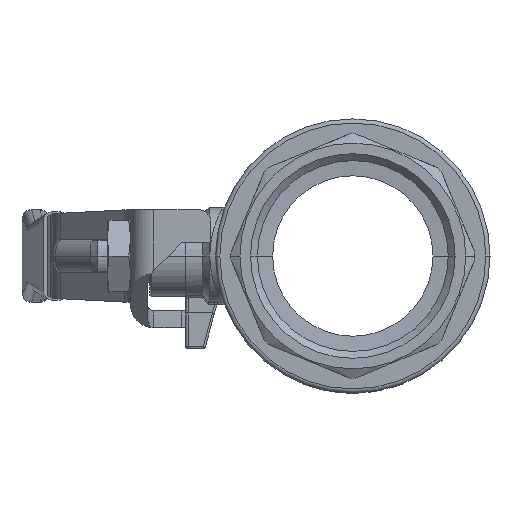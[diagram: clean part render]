
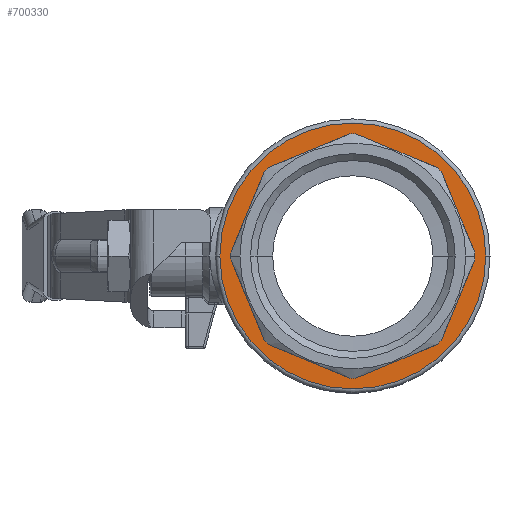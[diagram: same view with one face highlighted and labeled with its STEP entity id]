
A CAD part, left-side view. The second image highlights one B-rep face of the part: STEP entity #700330.
In plain terms, the highlighted planar face has unit normal (-1, 0, 0) as drawn and (1, 0, 0) by its records, which use the part's own axes.
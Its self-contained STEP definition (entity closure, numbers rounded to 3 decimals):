
#698880=CARTESIAN_POINT('',(28.25,31.5,
0.));
#698890=VERTEX_POINT('',#698880);
#698980=CARTESIAN_POINT('',(28.25,-31.5,
0.));
#698990=VERTEX_POINT('',#698980);
#699020=CARTESIAN_POINT('',(28.25,0.,
0.));
#699030=DIRECTION('',(1.,0.,0.));
#699040=DIRECTION('',(0.,1.,0.));
#699050=AXIS2_PLACEMENT_3D('',#699020,#699030,#699040);
#699060=CIRCLE('',#699050,31.5);
#699070=EDGE_CURVE('',#698990,#698890,#699060,.T.);
#699120=CARTESIAN_POINT('',(28.25,0.,
0.));
#699130=DIRECTION('',(1.,0.,0.));
#699140=DIRECTION('',(0.,1.,0.));
#699150=AXIS2_PLACEMENT_3D('',#699120,#699130,#699140);
#699160=PLANE('',#699150);
#699170=EDGE_CURVE('',#698890,#698990,#699060,.T.);
#699180=ORIENTED_EDGE('',*,*,#699170,.T.);
#699190=ORIENTED_EDGE('',*,*,#699070,.T.);
#699200=EDGE_LOOP('',(#699190,#699180));
#699210=FACE_OUTER_BOUND('',#699200,.T.);
#699220=CARTESIAN_POINT('',(28.25,0.,
0.));
#699230=DIRECTION('',(1.,0.,0.));
#699240=DIRECTION('',(0.,1.,0.));
#699250=AXIS2_PLACEMENT_3D('',#699220,#699230,#699240);
#699260=CIRCLE('',#699250,28.94);
#699270=CARTESIAN_POINT('',(28.25,-19.957,
20.958));
#699280=VERTEX_POINT('',#699270);
#699290=CARTESIAN_POINT('',(28.25,-20.958,
19.957));
#699300=VERTEX_POINT('',#699290);
#699310=EDGE_CURVE('',#699280,#699300,#699260,.T.);
#699320=ORIENTED_EDGE('',*,*,#699310,.F.);
#699330=CARTESIAN_POINT('',(28.25,-29.225,
0.));
#699340=DIRECTION('',(0.,0.383,
0.924));
#699350=VECTOR('',#699340,1.);
#699360=LINE('',#699330,#699350);
#699370=CARTESIAN_POINT('',(28.25,-28.931,
0.708));
#699380=VERTEX_POINT('',#699370);
#699390=EDGE_CURVE('',#699380,#699300,#699360,.T.);
#699400=ORIENTED_EDGE('',*,*,#699390,.T.);
#699410=CARTESIAN_POINT('',(28.25,-28.94,0.
));
#699420=VERTEX_POINT('',#699410);
#699430=EDGE_CURVE('',#699380,#699420,#699260,.T.);
#699440=ORIENTED_EDGE('',*,*,#699430,.F.);
#699450=CARTESIAN_POINT('',(28.25,-28.931,
-0.708));
#699460=VERTEX_POINT('',#699450);
#699470=EDGE_CURVE('',#699420,#699460,#699260,.T.);
#699480=ORIENTED_EDGE('',*,*,#699470,.F.);
#699490=CARTESIAN_POINT('',(28.25,-29.225,
0.));
#699500=DIRECTION('',(0.,-0.383,
0.924));
#699510=VECTOR('',#699500,1.);
#699520=LINE('',#699490,#699510);
#699530=CARTESIAN_POINT('',(28.25,-20.958,
-19.957));
#699540=VERTEX_POINT('',#699530);
#699550=EDGE_CURVE('',#699540,#699460,#699520,.T.);
#699560=ORIENTED_EDGE('',*,*,#699550,.T.);
#699570=CARTESIAN_POINT('',(28.25,-19.957,
-20.958));
#699580=VERTEX_POINT('',#699570);
#699590=EDGE_CURVE('',#699540,#699580,#699260,.T.);
#699600=ORIENTED_EDGE('',*,*,#699590,.F.);
#699610=CARTESIAN_POINT('',(28.25,0.,
-29.225));
#699620=DIRECTION('',(0.,-0.924,
0.383));
#699630=VECTOR('',#699620,1.);
#699640=LINE('',#699610,#699630);
#699650=CARTESIAN_POINT('',(28.25,-0.708,
-28.931));
#699660=VERTEX_POINT('',#699650);
#699670=EDGE_CURVE('',#699660,#699580,#699640,.T.);
#699680=ORIENTED_EDGE('',*,*,#699670,.T.);
#699690=CARTESIAN_POINT('',(28.25,0.708,
-28.931));
#699700=VERTEX_POINT('',#699690);
#699710=EDGE_CURVE('',#699660,#699700,#699260,.T.);
#699720=ORIENTED_EDGE('',*,*,#699710,.F.);
#699730=CARTESIAN_POINT('',(28.25,0.,
-29.225));
#699740=DIRECTION('',(0.,-0.924,
-0.383));
#699750=VECTOR('',#699740,1.);
#699760=LINE('',#699730,#699750);
#699770=CARTESIAN_POINT('',(28.25,19.957,
-20.958));
#699780=VERTEX_POINT('',#699770);
#699790=EDGE_CURVE('',#699780,#699700,#699760,.T.);
#699800=ORIENTED_EDGE('',*,*,#699790,.T.);
#699810=CARTESIAN_POINT('',(28.25,20.958,
-19.957));
#699820=VERTEX_POINT('',#699810);
#699830=EDGE_CURVE('',#699780,#699820,#699260,.T.);
#699840=ORIENTED_EDGE('',*,*,#699830,.F.);
#699850=CARTESIAN_POINT('',(28.25,29.225,
0.));
#699860=DIRECTION('',(0.,-0.383,
-0.924));
#699870=VECTOR('',#699860,1.);
#699880=LINE('',#699850,#699870);
#699890=CARTESIAN_POINT('',(28.25,28.931,
-0.708));
#699900=VERTEX_POINT('',#699890);
#699910=EDGE_CURVE('',#699900,#699820,#699880,.T.);
#699920=ORIENTED_EDGE('',*,*,#699910,.T.);
#699930=CARTESIAN_POINT('',(28.25,28.94,0.
));
#699940=VERTEX_POINT('',#699930);
#699950=EDGE_CURVE('',#699900,#699940,#699260,.T.);
#699960=ORIENTED_EDGE('',*,*,#699950,.F.);
#699970=CARTESIAN_POINT('',(28.25,28.931,
0.708));
#699980=VERTEX_POINT('',#699970);
#699990=EDGE_CURVE('',#699940,#699980,#699260,.T.);
#700000=ORIENTED_EDGE('',*,*,#699990,.F.);
#700010=CARTESIAN_POINT('',(28.25,29.225,
0.));
#700020=DIRECTION('',(0.,0.383,
-0.924));
#700030=VECTOR('',#700020,1.);
#700040=LINE('',#700010,#700030);
#700050=CARTESIAN_POINT('',(28.25,20.958,
19.957));
#700060=VERTEX_POINT('',#700050);
#700070=EDGE_CURVE('',#700060,#699980,#700040,.T.);
#700080=ORIENTED_EDGE('',*,*,#700070,.T.);
#700090=CARTESIAN_POINT('',(28.25,19.957,
20.958));
#700100=VERTEX_POINT('',#700090);
#700110=EDGE_CURVE('',#700060,#700100,#699260,.T.);
#700120=ORIENTED_EDGE('',*,*,#700110,.F.);
#700130=CARTESIAN_POINT('',(28.25,0.,
29.225));
#700140=DIRECTION('',(0.,0.924,
-0.383));
#700150=VECTOR('',#700140,1.);
#700160=LINE('',#700130,#700150);
#700170=CARTESIAN_POINT('',(28.25,0.708,
28.931));
#700180=VERTEX_POINT('',#700170);
#700190=EDGE_CURVE('',#700180,#700100,#700160,.T.);
#700200=ORIENTED_EDGE('',*,*,#700190,.T.);
#700210=CARTESIAN_POINT('',(28.25,-0.708,
28.931));
#700220=VERTEX_POINT('',#700210);
#700230=EDGE_CURVE('',#700180,#700220,#699260,.T.);
#700240=ORIENTED_EDGE('',*,*,#700230,.F.);
#700250=CARTESIAN_POINT('',(28.25,0.,
29.225));
#700260=DIRECTION('',(0.,0.924,
0.383));
#700270=VECTOR('',#700260,1.);
#700280=LINE('',#700250,#700270);
#700290=EDGE_CURVE('',#699280,#700220,#700280,.T.);
#700300=ORIENTED_EDGE('',*,*,#700290,.T.);
#700310=EDGE_LOOP('',(#700300,#700240,#700200,#700120,#700080,#700000,
#699960,#699920,#699840,#699800,#699720,#699680,#699600,#699560,#699480,
#699440,#699400,#699320));
#700320=FACE_BOUND('',#700310,.T.);
#700330=ADVANCED_FACE('',(#699210,#700320),#699160,.T.);
